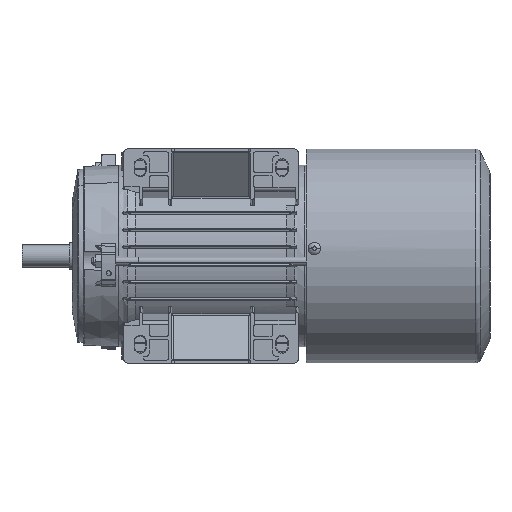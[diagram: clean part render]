
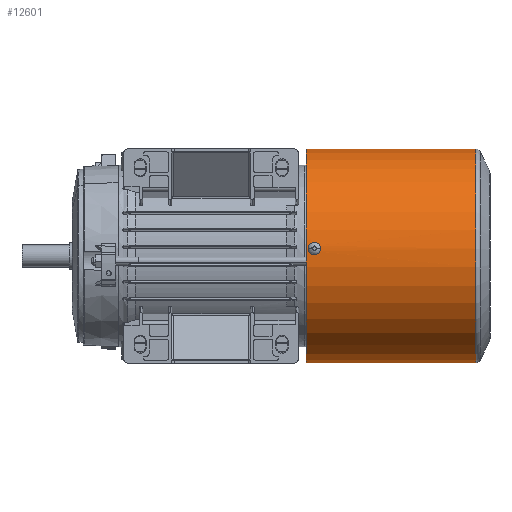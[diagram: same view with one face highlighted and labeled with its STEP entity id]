
A CAD part, front view. The second image highlights one B-rep face of the part: STEP entity #12601.
In plain terms, the highlighted cylindrical face has radius 68 mm (diameter 136 mm), a partial arc.
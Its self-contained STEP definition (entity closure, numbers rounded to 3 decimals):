
#2706 = CARTESIAN_POINT ( 'NONE',  ( -2., 111.632, 67.971 ) ) ;
#3035 = CARTESIAN_POINT ( 'NONE',  ( -1.003, 113.235, 67.993 ) ) ;
#3285 = ORIENTED_EDGE ( 'NONE', *, *, #48109, .T. ) ;
#3374 = CARTESIAN_POINT ( 'NONE',  ( 1.748, 112.505, 67.978 ) ) ;
#4654 = CARTESIAN_POINT ( 'NONE',  ( 2., 111.37, 67.971 ) ) ;
#4965 = CARTESIAN_POINT ( 'NONE',  ( 1.987, 111.237, 67.971 ) ) ;
#5278 = CARTESIAN_POINT ( 'NONE',  ( 0.262, 109.513, 68. ) ) ;
#5602 = CARTESIAN_POINT ( 'NONE',  ( -2., 111.368, 67.971 ) ) ;
#5848 = LINE ( 'NONE', #52487, #83493 ) ;
#9408 = VERTEX_POINT ( 'NONE', #30381 ) ;
#10199 = CARTESIAN_POINT ( 'NONE',  ( -2., 111.5, 67.971 ) ) ;
#10247 = DIRECTION ( 'NONE',  ( 0., 1., 0. ) ) ;
#10522 = CARTESIAN_POINT ( 'NONE',  ( -0.525, 113.447, 67.998 ) ) ;
#10842 = CARTESIAN_POINT ( 'NONE',  ( 2., 111.761, 67.971 ) ) ;
#10908 = CIRCLE ( 'NONE', #78729, 68. ) ;
#11182 = ORIENTED_EDGE ( 'NONE', *, *, #44397, .T. ) ;
#12459 = CARTESIAN_POINT ( 'NONE',  ( 1.898, 110.856, 67.974 ) ) ;
#12601 = ADVANCED_FACE ( 'NONE', ( #52114, #34466 ), #87485, .T. ) ;
#12775 = CARTESIAN_POINT ( 'NONE',  ( -0.262, 109.5, 68. ) ) ;
#14421 = EDGE_LOOP ( 'NONE', ( #16575, #3285 ) ) ;
#16575 = ORIENTED_EDGE ( 'NONE', *, *, #29500, .T. ) ;
#17742 = CARTESIAN_POINT ( 'NONE',  ( -1.987, 111.762, 67.971 ) ) ;
#18051 = CARTESIAN_POINT ( 'NONE',  ( 0.134, 113.5, 68. ) ) ;
#19969 = CARTESIAN_POINT ( 'NONE',  ( 1.735, 110.497, 67.978 ) ) ;
#20300 = CARTESIAN_POINT ( 'NONE',  ( -1.006, 109.752, 67.993 ) ) ;
#22458 = DIRECTION ( 'NONE',  ( 0., 1., 0. ) ) ;
#25083 = CARTESIAN_POINT ( 'NONE',  ( -2., 111.5, 67.971 ) ) ;
#25310 = CARTESIAN_POINT ( 'NONE',  ( -1.898, 112.145, 67.974 ) ) ;
#25645 = CARTESIAN_POINT ( 'NONE',  ( 0.519, 113.436, 67.998 ) ) ;
#27575 = CARTESIAN_POINT ( 'NONE',  ( 1.507, 110.179, 67.983 ) ) ;
#27900 = CARTESIAN_POINT ( 'NONE',  ( -1.506, 110.178, 67.983 ) ) ;
#29432 = VERTEX_POINT ( 'NONE', #84621 ) ;
#29500 = EDGE_CURVE ( 'NONE', #86358, #29432, #41102, .T. ) ;
#30010 = VECTOR ( 'NONE', #46526, 1000. ) ;
#30381 = CARTESIAN_POINT ( 'NONE',  ( -68., 9.011, 0. ) ) ;
#32467 = CARTESIAN_POINT ( 'NONE',  ( 68., 116.5, 0. ) ) ;
#32909 = CARTESIAN_POINT ( 'NONE',  ( -1.736, 112.502, 67.978 ) ) ;
#33230 = CARTESIAN_POINT ( 'NONE',  ( 0.888, 113.297, 67.994 ) ) ;
#34466 = FACE_OUTER_BOUND ( 'NONE', #57161, .T. ) ;
#35150 = CARTESIAN_POINT ( 'NONE',  ( 1.219, 109.909, 67.989 ) ) ;
#35472 = CARTESIAN_POINT ( 'NONE',  ( -1.736, 110.498, 67.978 ) ) ;
#35856 = EDGE_CURVE ( 'NONE', #9408, #56583, #10908, .T. ) ;
#36618 = DIRECTION ( 'NONE',  ( 0., 1., 0. ) ) ;
#37649 = DIRECTION ( 'NONE',  ( -1., 0., 0. ) ) ;
#38454 = CIRCLE ( 'NONE', #75975, 68. ) ;
#40497 = CARTESIAN_POINT ( 'NONE',  ( -1.506, 112.822, 67.983 ) ) ;
#40830 = CARTESIAN_POINT ( 'NONE',  ( 1.22, 113.09, 67.989 ) ) ;
#41102 = B_SPLINE_CURVE_WITH_KNOTS ( 'NONE', 3,
 ( #10199, #2706, #17742, #70444, #25310, #78016, #32909, #85590, #40497, #93215, #48072, #3035, #55611, #10522, #63196, #18051, #70767, #25645, #78340, #33230, #85919, #40830, #93542, #48400, #3374, #55929, #10842, #63544 ),
 .UNSPECIFIED., .F., .F.,
 ( 4, 2, 2, 2, 2, 2, 2, 2, 2, 2, 2, 2, 2, 4 ),
 ( 0.009, 0.01, 0.01, 0.011, 0.011, 0.011, 0.012, 0.013, 0.013, 0.013, 0.014, 0.014, 0.015, 0.016 ),
 .UNSPECIFIED. ) ;
#42774 = CARTESIAN_POINT ( 'NONE',  ( 0.886, 109.702, 67.994 ) ) ;
#43089 = CARTESIAN_POINT ( 'NONE',  ( -1.898, 110.855, 67.974 ) ) ;
#43676 = AXIS2_PLACEMENT_3D ( 'NONE', #90373, #22458, #37649 ) ;
#44397 = EDGE_CURVE ( 'NONE', #56583, #96579, #70109, .T. ) ;
#46526 = DIRECTION ( 'NONE',  ( 0., 1., 0. ) ) ;
#46847 = CARTESIAN_POINT ( 'NONE',  ( 68., 139.861, 0. ) ) ;
#48072 = CARTESIAN_POINT ( 'NONE',  ( -1.221, 113.089, 67.989 ) ) ;
#48109 = EDGE_CURVE ( 'NONE', #29432, #86358, #85620, .T. ) ;
#48400 = CARTESIAN_POINT ( 'NONE',  ( 1.6, 112.729, 67.981 ) ) ;
#50273 = CARTESIAN_POINT ( 'NONE',  ( 0.519, 109.564, 67.998 ) ) ;
#50595 = CARTESIAN_POINT ( 'NONE',  ( -1.987, 111.238, 67.971 ) ) ;
#52114 = FACE_BOUND ( 'NONE', #14421, .T. ) ;
#52487 = CARTESIAN_POINT ( 'NONE',  ( -68., 139.861, 0. ) ) ;
#55326 = CARTESIAN_POINT ( 'NONE',  ( 0., 116.5, 0. ) ) ;
#55611 = CARTESIAN_POINT ( 'NONE',  ( -0.886, 113.298, 67.994 ) ) ;
#55929 = CARTESIAN_POINT ( 'NONE',  ( 1.948, 112.024, 67.972 ) ) ;
#56583 = VERTEX_POINT ( 'NONE', #62026 ) ;
#56677 = ORIENTED_EDGE ( 'NONE', *, *, #35856, .T. ) ;
#57161 = EDGE_LOOP ( 'NONE', ( #56677, #11182, #57173, #94866 ) ) ;
#57173 = ORIENTED_EDGE ( 'NONE', *, *, #68028, .F. ) ;
#57524 = CARTESIAN_POINT ( 'NONE',  ( 1.936, 110.981, 67.972 ) ) ;
#57854 = CARTESIAN_POINT ( 'NONE',  ( 0.13, 109.5, 68. ) ) ;
#58170 = CARTESIAN_POINT ( 'NONE',  ( -2., 111.5, 67.971 ) ) ;
#62026 = CARTESIAN_POINT ( 'NONE',  ( 68., 9.011, 0. ) ) ;
#62912 = DIRECTION ( 'NONE',  ( -1., 0., 0. ) ) ;
#63196 = CARTESIAN_POINT ( 'NONE',  ( -0.263, 113.5, 68. ) ) ;
#63544 = CARTESIAN_POINT ( 'NONE',  ( 2., 111.5, 67.971 ) ) ;
#65125 = CARTESIAN_POINT ( 'NONE',  ( 1.798, 110.614, 67.976 ) ) ;
#65454 = CARTESIAN_POINT ( 'NONE',  ( -0.525, 109.553, 67.998 ) ) ;
#68028 = EDGE_CURVE ( 'NONE', #80487, #96579, #38454, .T. ) ;
#70109 = LINE ( 'NONE', #46847, #30010 ) ;
#70444 = CARTESIAN_POINT ( 'NONE',  ( -1.936, 112.018, 67.972 ) ) ;
#70767 = CARTESIAN_POINT ( 'NONE',  ( 0.264, 113.487, 68. ) ) ;
#72681 = CARTESIAN_POINT ( 'NONE',  ( 1.59, 110.28, 67.981 ) ) ;
#73010 = CARTESIAN_POINT ( 'NONE',  ( -1.23, 109.901, 67.989 ) ) ;
#75213 = DIRECTION ( 'NONE',  ( 0., 1., 0. ) ) ;
#75975 = AXIS2_PLACEMENT_3D ( 'NONE', #55326, #10247, #62912 ) ;
#78016 = CARTESIAN_POINT ( 'NONE',  ( -1.797, 112.387, 67.976 ) ) ;
#78340 = CARTESIAN_POINT ( 'NONE',  ( 0.646, 113.397, 67.997 ) ) ;
#78729 = AXIS2_PLACEMENT_3D ( 'NONE', #81734, #36618, #89336 ) ;
#80253 = CARTESIAN_POINT ( 'NONE',  ( 1.321, 109.992, 67.987 ) ) ;
#80487 = VERTEX_POINT ( 'NONE', #94389 ) ;
#80576 = CARTESIAN_POINT ( 'NONE',  ( -1.591, 110.281, 67.981 ) ) ;
#81734 = CARTESIAN_POINT ( 'NONE',  ( 0., 9.011, 0. ) ) ;
#82831 = EDGE_CURVE ( 'NONE', #9408, #80487, #5848, .T. ) ;
#83493 = VECTOR ( 'NONE', #75213, 1000. ) ;
#84621 = CARTESIAN_POINT ( 'NONE',  ( 2., 111.5, 67.971 ) ) ;
#85590 = CARTESIAN_POINT ( 'NONE',  ( -1.591, 112.719, 67.981 ) ) ;
#85620 = B_SPLINE_CURVE_WITH_KNOTS ( 'NONE', 3,
 ( #87530, #4654, #4965, #57524, #12459, #65125, #19969, #72681, #27575, #80253, #35150, #87863, #42774, #95450, #50273, #5278, #57854, #12775, #65454, #20300, #73010, #27900, #80576, #35472, #88190, #43089, #95792, #50595, #5602, #58170 ),
 .UNSPECIFIED., .F., .F.,
 ( 4, 2, 2, 2, 2, 2, 2, 2, 2, 2, 2, 2, 2, 2, 4 ),
 ( 0.003, 0.004, 0.004, 0.004, 0.005, 0.005, 0.005, 0.006, 0.006, 0.007, 0.008, 0.008, 0.009, 0.009, 0.009 ),
 .UNSPECIFIED. ) ;
#85919 = CARTESIAN_POINT ( 'NONE',  ( 1.003, 113.235, 67.993 ) ) ;
#86358 = VERTEX_POINT ( 'NONE', #25083 ) ;
#87485 = CYLINDRICAL_SURFACE ( 'NONE', #43676, 68. ) ;
#87530 = CARTESIAN_POINT ( 'NONE',  ( 2., 111.5, 67.971 ) ) ;
#87863 = CARTESIAN_POINT ( 'NONE',  ( 1.003, 109.765, 67.993 ) ) ;
#88190 = CARTESIAN_POINT ( 'NONE',  ( -1.797, 110.613, 67.976 ) ) ;
#89336 = DIRECTION ( 'NONE',  ( -1., 0., 0. ) ) ;
#90373 = CARTESIAN_POINT ( 'NONE',  ( 0., 139.861, 0. ) ) ;
#93215 = CARTESIAN_POINT ( 'NONE',  ( -1.322, 113.007, 67.987 ) ) ;
#93542 = CARTESIAN_POINT ( 'NONE',  ( 1.323, 113.005, 67.987 ) ) ;
#94389 = CARTESIAN_POINT ( 'NONE',  ( -68., 116.5, 0. ) ) ;
#94866 = ORIENTED_EDGE ( 'NONE', *, *, #82831, .F. ) ;
#95450 = CARTESIAN_POINT ( 'NONE',  ( 0.643, 109.602, 67.997 ) ) ;
#95792 = CARTESIAN_POINT ( 'NONE',  ( -1.936, 110.982, 67.972 ) ) ;
#96579 = VERTEX_POINT ( 'NONE', #32467 ) ;
